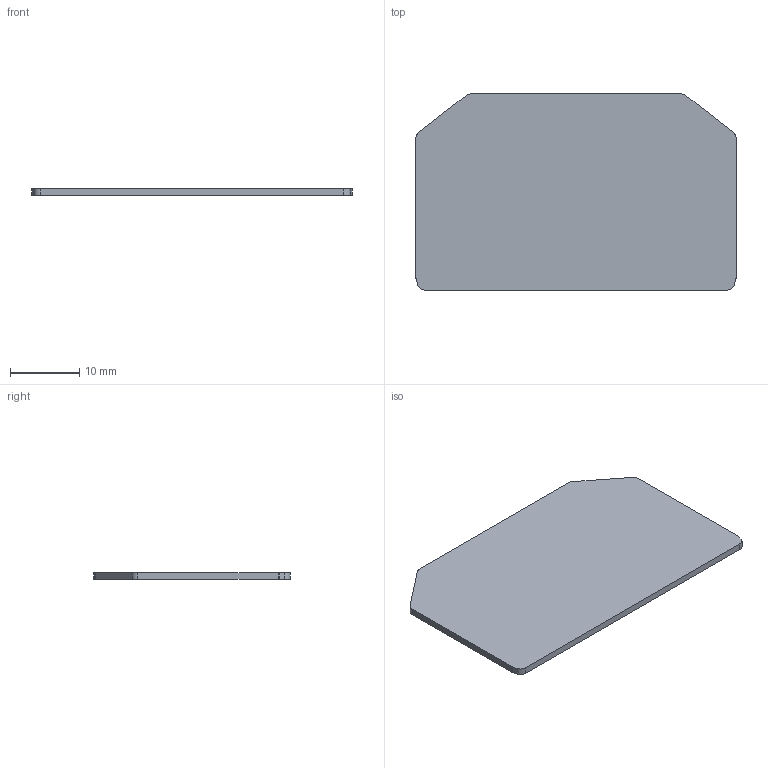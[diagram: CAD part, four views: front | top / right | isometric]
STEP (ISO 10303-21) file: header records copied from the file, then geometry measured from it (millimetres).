
FILE_DESCRIPTION(('OneSpaceDesigner STEP Export'),'2;1');
FILE_NAME('3101029_d_mtk_select.stp','2004-07-08T 7:43:22',(''),(''),'OneSpace Designer STEP processor (Jan. 2003) for AP203(Solid Model)','OneSpace Designer 12.01C 26-Mar-2004 (C) CoCreate Software GmbH','');
FILE_SCHEMA(('CONFIG_CONTROL_DESIGN'));
Length unit declared in the file: millimetre
Products named in the file (2): 3101029_d_mtk_select
Assembly tree (1 placements, depth 2):
  3101029_d_mtk_select
    3101029_d_mtk_select
Bounding box: 46.2 x 28.3 x 1 mm (x, y, z)
Volume: 1262.5 mm3; surface area: 2664.9 mm2
Topology: 1 solids, 1 shells, 18 faces, 48 edges, 32 vertices
Faces by surface type: plane 10, cylinder 8
Entity records: 790 total; most frequent: DIRECTION 104, CARTESIAN_POINT 100, ORIENTED_EDGE 96, EDGE_CURVE 48, AXIS2_PLACEMENT_3D 36, VECTOR 32, LINE 32, VERTEX_POINT 32
